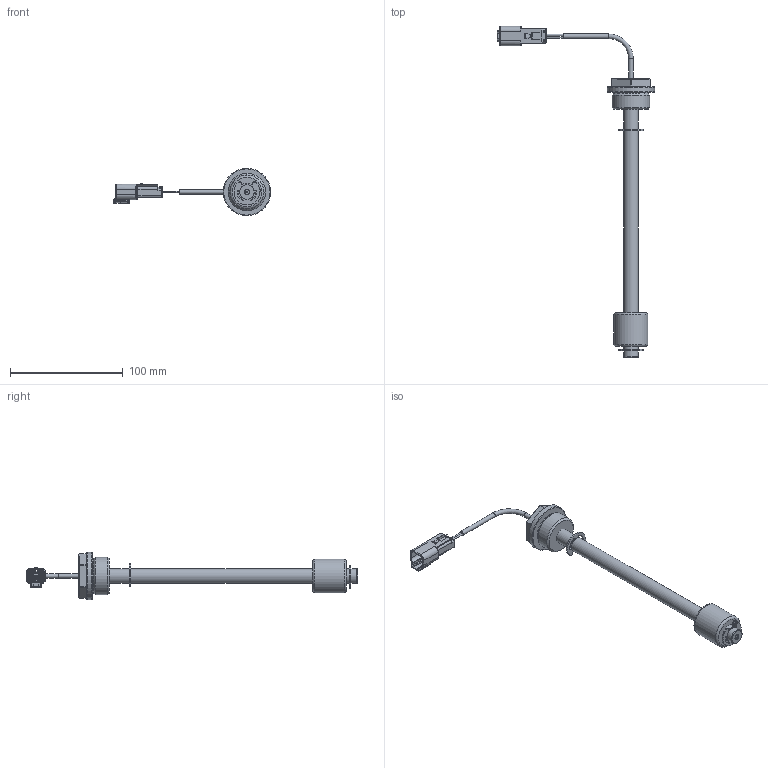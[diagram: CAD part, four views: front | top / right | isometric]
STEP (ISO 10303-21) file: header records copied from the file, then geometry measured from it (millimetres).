
FILE_DESCRIPTION (( 'STEP AP214' ), '1' );
FILE_NAME ('IMRS.STEP', '2025-04-24T08:41:48', ( '' ), ( '' ), 'SwSTEP 2.0', 'SolidWorks 2019', '' );
FILE_SCHEMA (( 'AUTOMOTIVE_DESIGN' ));
Length unit declared in the file: millimetre
Products named in the file (1): IMRS
Bounding box: 139.28 x 293.49 x 42 mm (x, y, z)
Surface area: 26832.4 mm2 (no closed solid volume)
Topology: 0 solids, 35 shells, 333 faces, 1423 edges, 1100 vertices
Faces by surface type: plane 154, cylinder 114, bspline 35, cone 15, torus 13, sphere 2
Full cylindrical faces by diameter (mm): 0.94 x1, 1.4 x2, 4 x2, 12 x2, 13 x4, 15.5 x1, 15.9 x1, 20 x1, 30 x1, 30.25 x1, 33.25 x1, 42 x1
Entity records: 20693 total; most frequent: CARTESIAN_POINT 6083, DIRECTION 2098, ORIENTED_EDGE 1991, EDGE_CURVE 1376, VERTEX_POINT 1091, VECTOR 854, LINE 854, AXIS2_PLACEMENT_3D 622
